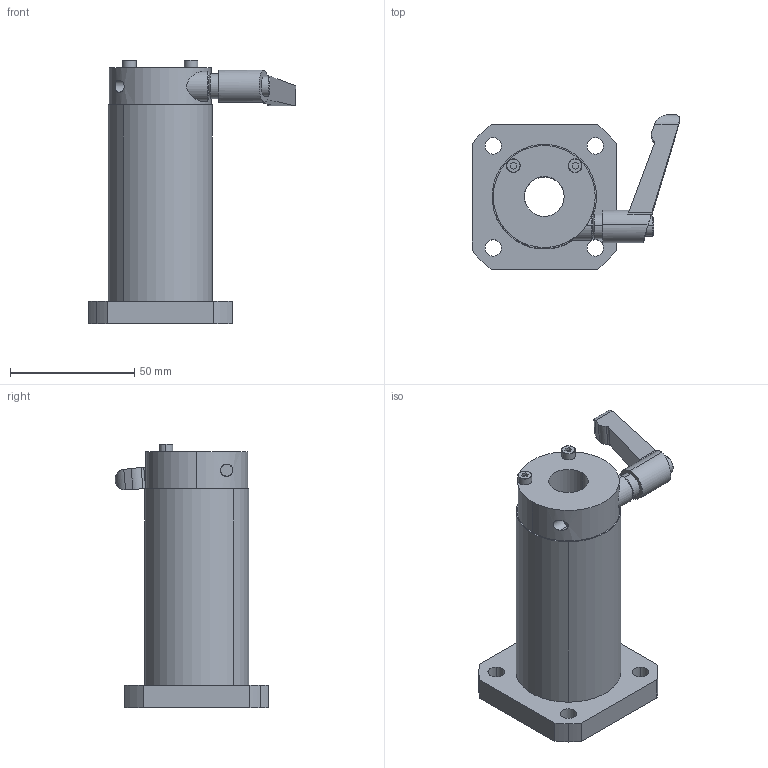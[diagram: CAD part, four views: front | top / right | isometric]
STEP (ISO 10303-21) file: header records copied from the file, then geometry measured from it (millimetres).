
FILE_DESCRIPTION (( 'STEP AP214' ), '1' );
FILE_NAME ('LFWK16-CS.STEP', '2023-06-27T01:58:36', ( '' ), ( '' ), 'SwSTEP 2.0', 'SolidWorks 2019', '' );
FILE_SCHEMA (( 'AUTOMOTIVE_DESIGN' ));
Length unit declared in the file: millimetre
Products named in the file (3): LFWK16; “ÁSCK1615SS-S3.4; LFWK16-CS
Assembly tree (2 placements, depth 2):
  LFWK16-CS
    LFWK16
    “ÁSCK1615SS-S3.4
Bounding box: 83.5 x 61.84 x 106 mm (x, y, z)
Volume: 136481.2 mm3; surface area: 36303.4 mm2
Topology: 3 solids, 8 shells, 196 faces, 484 edges, 308 vertices
Faces by surface type: cylinder 79, plane 59, bspline 39, cone 11, torus 8
Entity records: 8600 total; most frequent: CARTESIAN_POINT 1879, DIRECTION 1023, ORIENTED_EDGE 968, EDGE_CURVE 484, AXIS2_PLACEMENT_3D 420, VERTEX_POINT 308, CIRCLE 258, EDGE_LOOP 238
